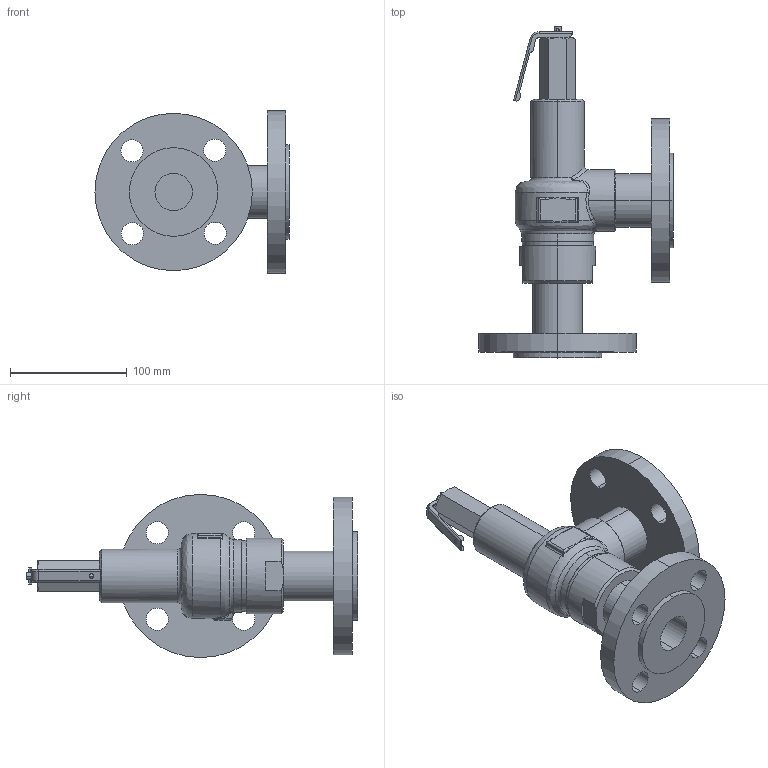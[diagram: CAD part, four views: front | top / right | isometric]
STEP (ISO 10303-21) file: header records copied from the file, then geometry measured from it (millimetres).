
FILE_DESCRIPTION( (''), '2;1');
FILE_NAME ('PC1276.5360.AL-32ML 32A_32374.stp','2025-12-05T09:10:14',(''),(''),'spGate 20.6.3 (****-****-****-****)','','');
FILE_SCHEMA (('AUTOMOTIVE_DESIGN'));
Length unit declared in the file: millimetre
Products named in the file (3): Assembly; AL-12 Lever; AL-32ML 32A(non-lever)-3D
Assembly tree (2 placements, depth 2):
  Assembly
    AL-12 Lever
    AL-32ML 32A(non-lever)-3D
Bounding box: 166.5 x 284.75 x 140 mm (x, y, z)
Volume: 1005058 mm3; surface area: 139360.6 mm2
Topology: 2 solids, 2 shells, 186 faces, 464 edges, 295 vertices
Faces by surface type: cylinder 80, plane 56, bspline 48, sphere 2
Entity records: 11275 total; most frequent: CARTESIAN_POINT 3378, ORIENTED_EDGE 924, DIRECTION 810, COLOUR_RGB 650, PRESENTATION_STYLE_ASSIGNMENT 650, STYLED_ITEM 650, EDGE_CURVE 462, DRAUGHTING_PRE_DEFINED_CURVE_FONT 462
